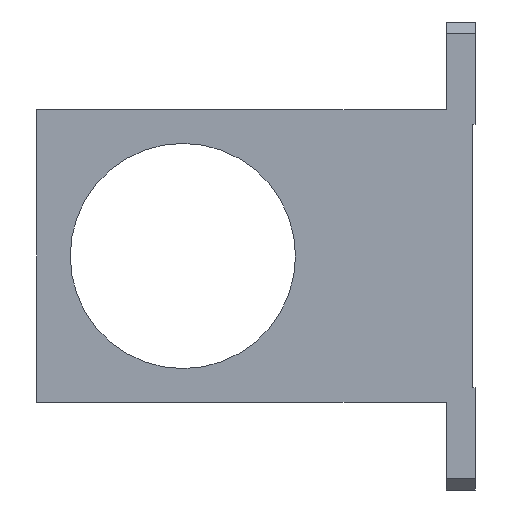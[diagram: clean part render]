
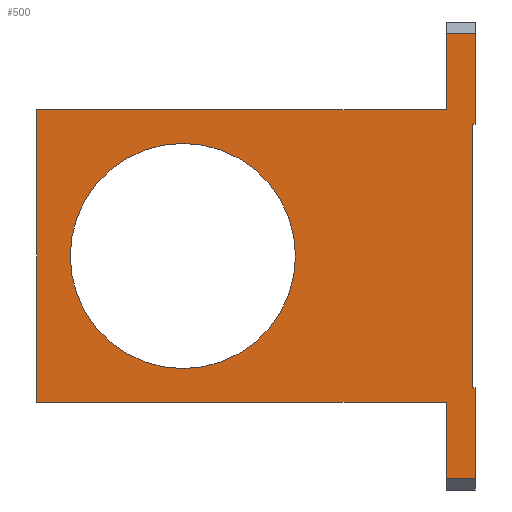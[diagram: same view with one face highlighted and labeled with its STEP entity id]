
A CAD part, front view. The second image highlights one B-rep face of the part: STEP entity #500.
In plain terms, the highlighted planar face has unit normal (0, -1, 0).
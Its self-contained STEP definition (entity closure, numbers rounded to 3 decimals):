
#21=FACE_BOUND('',#75,.T.);
#33=CIRCLE('',#531,19.25);
#46=FACE_OUTER_BOUND('',#74,.T.);
#74=EDGE_LOOP('',(#345,#346,#347,#348,#349,#350,#351,#352,#353,#354,#355,
#356));
#75=EDGE_LOOP('',(#357));
#116=LINE('',#716,#172);
#117=LINE('',#719,#173);
#118=LINE('',#721,#174);
#119=LINE('',#723,#175);
#120=LINE('',#725,#176);
#121=LINE('',#727,#177);
#122=LINE('',#729,#178);
#123=LINE('',#731,#179);
#124=LINE('',#733,#180);
#125=LINE('',#735,#181);
#126=LINE('',#737,#182);
#127=LINE('',#738,#183);
#172=VECTOR('',#576,5.);
#173=VECTOR('',#579,15.5);
#174=VECTOR('',#580,0.5);
#175=VECTOR('',#581,45.);
#176=VECTOR('',#582,0.5);
#177=VECTOR('',#583,15.5);
#178=VECTOR('',#584,5.);
#179=VECTOR('',#585,13.);
#180=VECTOR('',#586,70.);
#181=VECTOR('',#587,50.);
#182=VECTOR('',#588,70.);
#183=VECTOR('',#589,13.);
#225=VERTEX_POINT('',#709);
#228=VERTEX_POINT('',#714);
#229=VERTEX_POINT('',#718);
#230=VERTEX_POINT('',#720);
#231=VERTEX_POINT('',#722);
#232=VERTEX_POINT('',#724);
#233=VERTEX_POINT('',#726);
#234=VERTEX_POINT('',#728);
#235=VERTEX_POINT('',#730);
#236=VERTEX_POINT('',#732);
#237=VERTEX_POINT('',#734);
#238=VERTEX_POINT('',#736);
#239=VERTEX_POINT('',#739);
#276=EDGE_CURVE('',#228,#225,#116,.T.);
#277=EDGE_CURVE('',#229,#228,#117,.T.);
#278=EDGE_CURVE('',#229,#230,#118,.T.);
#279=EDGE_CURVE('',#230,#231,#119,.T.);
#280=EDGE_CURVE('',#231,#232,#120,.T.);
#281=EDGE_CURVE('',#233,#232,#121,.T.);
#282=EDGE_CURVE('',#234,#233,#122,.T.);
#283=EDGE_CURVE('',#235,#234,#123,.T.);
#284=EDGE_CURVE('',#235,#236,#124,.T.);
#285=EDGE_CURVE('',#236,#237,#125,.T.);
#286=EDGE_CURVE('',#237,#238,#126,.T.);
#287=EDGE_CURVE('',#238,#225,#127,.T.);
#288=EDGE_CURVE('',#239,#239,#33,.T.);
#345=ORIENTED_EDGE('',*,*,#276,.F.);
#346=ORIENTED_EDGE('',*,*,#277,.F.);
#347=ORIENTED_EDGE('',*,*,#278,.T.);
#348=ORIENTED_EDGE('',*,*,#279,.T.);
#349=ORIENTED_EDGE('',*,*,#280,.T.);
#350=ORIENTED_EDGE('',*,*,#281,.F.);
#351=ORIENTED_EDGE('',*,*,#282,.F.);
#352=ORIENTED_EDGE('',*,*,#283,.F.);
#353=ORIENTED_EDGE('',*,*,#284,.T.);
#354=ORIENTED_EDGE('',*,*,#285,.T.);
#355=ORIENTED_EDGE('',*,*,#286,.T.);
#356=ORIENTED_EDGE('',*,*,#287,.T.);
#357=ORIENTED_EDGE('',*,*,#288,.T.);
#478=PLANE('',#530);
#500=ADVANCED_FACE('',(#46,#21),#478,.T.);
#530=AXIS2_PLACEMENT_3D('',#717,#577,#578);
#531=AXIS2_PLACEMENT_3D('',#740,#590,#591);
#576=DIRECTION('',(-1.,0.,0.));
#577=DIRECTION('center_axis',(0.,-1.,0.));
#578=DIRECTION('ref_axis',(0.,0.,-1.));
#579=DIRECTION('',(0.,0.,-1.));
#580=DIRECTION('',(-1.,0.,0.));
#581=DIRECTION('',(0.,0.,1.));
#582=DIRECTION('',(1.,0.,0.));
#583=DIRECTION('',(0.,0.,-1.));
#584=DIRECTION('',(1.,0.,0.));
#585=DIRECTION('',(0.,0.,1.));
#586=DIRECTION('',(-1.,0.,0.));
#587=DIRECTION('',(0.,0.,-1.));
#588=DIRECTION('',(1.,0.,0.));
#589=DIRECTION('',(0.,0.,-1.));
#590=DIRECTION('center_axis',(0.,1.,0.));
#591=DIRECTION('ref_axis',(-1.,0.,0.));
#709=CARTESIAN_POINT('',(-5.,-12.5,-38.));
#714=CARTESIAN_POINT('',(0.,-12.5,-38.));
#716=CARTESIAN_POINT('',(-24.358,-12.5,-38.));
#717=CARTESIAN_POINT('Origin',(-46.215,-12.5,-8.715));
#718=CARTESIAN_POINT('',(0.,-12.5,-22.5));
#719=CARTESIAN_POINT('',(0.,-12.5,-25.));
#720=CARTESIAN_POINT('',(-0.5,-12.5,-22.5));
#721=CARTESIAN_POINT('',(-23.108,-12.5,-22.5));
#722=CARTESIAN_POINT('',(-0.5,-12.5,22.5));
#723=CARTESIAN_POINT('',(-0.5,-12.5,-4.358));
#724=CARTESIAN_POINT('',(0.,-12.5,22.5));
#725=CARTESIAN_POINT('',(-23.108,-12.5,22.5));
#726=CARTESIAN_POINT('',(0.,-12.5,38.));
#727=CARTESIAN_POINT('',(0.,-12.5,-25.));
#728=CARTESIAN_POINT('',(-5.,-12.5,38.));
#729=CARTESIAN_POINT('',(-24.358,-12.5,38.));
#730=CARTESIAN_POINT('',(-5.,-12.5,25.));
#731=CARTESIAN_POINT('',(-5.,-12.5,25.));
#732=CARTESIAN_POINT('',(-75.,-12.5,25.));
#733=CARTESIAN_POINT('',(-75.,-12.5,25.));
#734=CARTESIAN_POINT('',(-75.,-12.5,-25.));
#735=CARTESIAN_POINT('',(-75.,-12.5,-25.));
#736=CARTESIAN_POINT('',(-5.,-12.5,-25.));
#737=CARTESIAN_POINT('',(0.,-12.5,-25.));
#738=CARTESIAN_POINT('',(-5.,-12.5,-25.));
#739=CARTESIAN_POINT('',(-30.75,-12.5,0.));
#740=CARTESIAN_POINT('Origin',(-50.,-12.5,0.));
